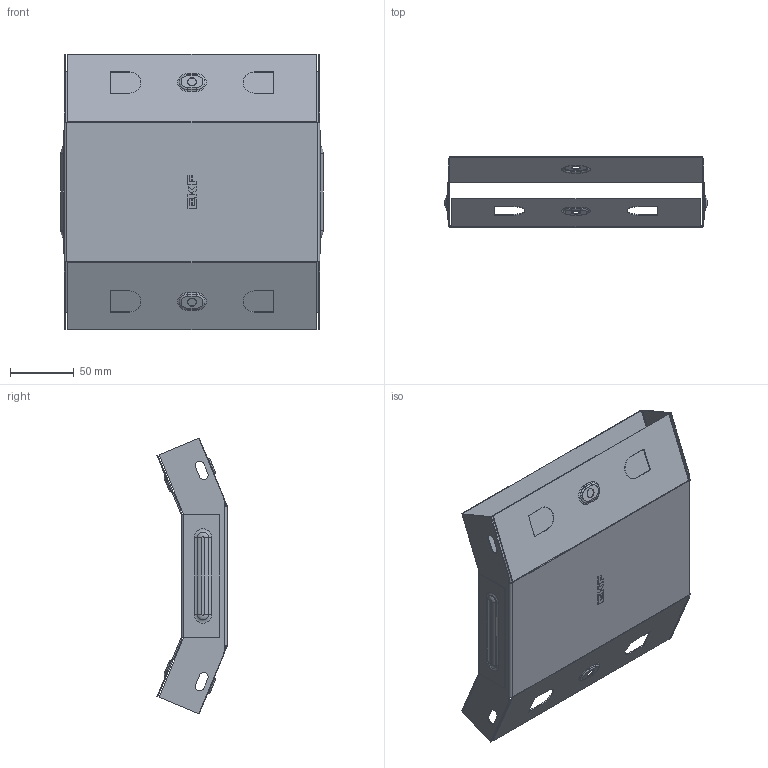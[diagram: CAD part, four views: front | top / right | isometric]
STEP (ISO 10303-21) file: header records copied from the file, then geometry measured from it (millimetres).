
FILE_DESCRIPTION (( 'STEP AP214' ), '1' );
FILE_NAME ('vi4535200_捘.STEP', '2019-06-10T08:29:19', ( '砐錪賧瘔蠈錪 Windows' ), ( '' ), 'SwSTEP 2.0', 'SolidWorks 2018', '' );
FILE_SCHEMA (( 'AUTOMOTIVE_DESIGN' ));
Length unit declared in the file: millimetre
Products named in the file (1): vi4535200_捘
Bounding box: 205.6 x 54.93 x 215.77 mm (x, y, z)
Volume: 80890.5 mm3; surface area: 204496 mm2
Topology: 2 solids, 2 shells, 432 faces, 1104 edges, 704 vertices
Faces by surface type: plane 234, cylinder 116, torus 64, bspline 18
Entity records: 13972 total; most frequent: CARTESIAN_POINT 3260, DIRECTION 2226, ORIENTED_EDGE 2208, EDGE_CURVE 1104, AXIS2_PLACEMENT_3D 743, LINE 740, VECTOR 740, VERTEX_POINT 704
